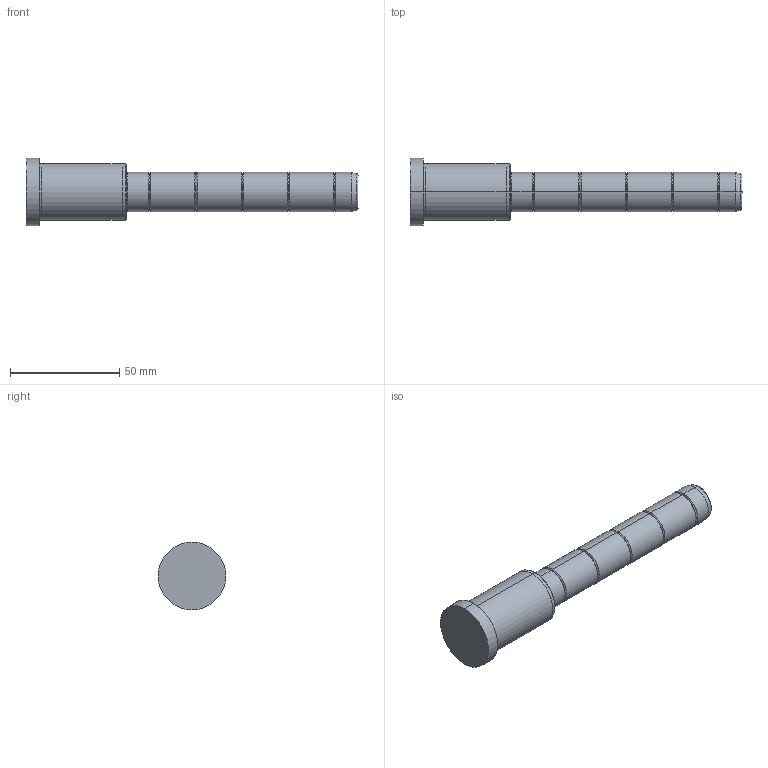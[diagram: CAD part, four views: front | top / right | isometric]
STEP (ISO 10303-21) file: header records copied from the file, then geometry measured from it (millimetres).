
FILE_DESCRIPTION( ( 'STEP AP203' ), '1' );
FILE_NAME( 'C:/Projects/D02 - 18x46x106.step', '2003-01-04T13:32:16', ( ' ' ), ( ' ' ), 'XStep 1.0', ' ', ' ' );
FILE_SCHEMA( ( 'CONFIG_CONTROL_DESIGN' ) );
Length unit declared in the file: metre
Products named in the file (1): 1
Bounding box: 152 x 31 x 31 mm (x, y, z)
Volume: 52582.4 mm3; surface area: 11411.5 mm2
Topology: 1 solids, 1 shells, 54 faces, 106 edges, 58 vertices
Faces by surface type: bspline 30, revolution 24
Entity records: 1721 total; most frequent: CARTESIAN_POINT 717, ORIENTED_EDGE 212, DIRECTION 166, EDGE_CURVE 106, AXIS2_PLACEMENT_3D 59, EDGE_LOOP 58, VERTEX_POINT 58, CIRCLE 58
